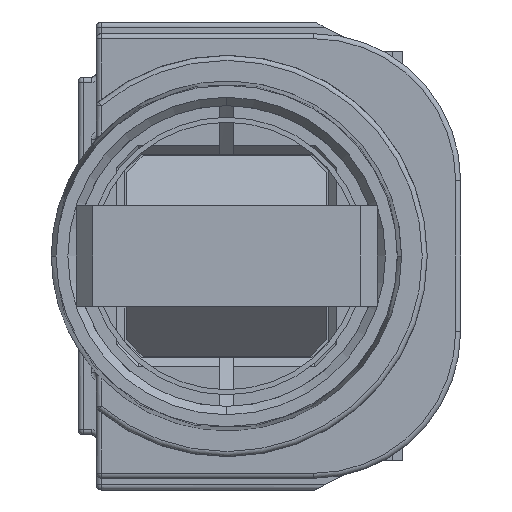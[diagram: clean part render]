
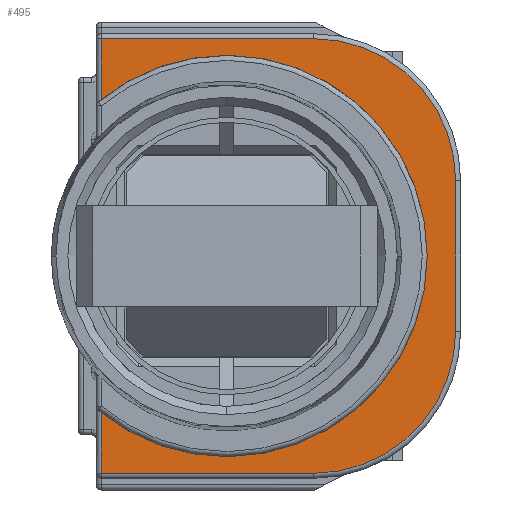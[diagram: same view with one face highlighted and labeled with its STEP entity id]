
A CAD part, front view. The second image highlights one B-rep face of the part: STEP entity #495.
In plain terms, the highlighted planar face has unit normal (0, -1, 0).
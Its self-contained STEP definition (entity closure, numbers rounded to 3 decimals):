
#495=ADVANCED_FACE('',(#1004),#808,.T.);
#808=PLANE('',#6183);
#1004=FACE_OUTER_BOUND('',#1349,.T.);
#1349=EDGE_LOOP('',(#2984,#2985,#2986,#2987,#2988,#2989,#2990,#2991));
#1736=LINE('',#8760,#2253);
#1743=LINE('',#9101,#2260);
#1744=LINE('',#9103,#2261);
#1745=LINE('',#9107,#2262);
#1746=LINE('',#9111,#2263);
#2253=VECTOR('',#6908,1.);
#2260=VECTOR('',#6979,1.);
#2261=VECTOR('',#6982,1.);
#2262=VECTOR('',#6985,1.);
#2263=VECTOR('',#6988,1.);
#2984=ORIENTED_EDGE('',*,*,#5086,.F.);
#2985=ORIENTED_EDGE('',*,*,#5125,.T.);
#2986=ORIENTED_EDGE('',*,*,#5126,.T.);
#2987=ORIENTED_EDGE('',*,*,#5127,.T.);
#2988=ORIENTED_EDGE('',*,*,#5128,.T.);
#2989=ORIENTED_EDGE('',*,*,#5129,.T.);
#2990=ORIENTED_EDGE('',*,*,#5130,.T.);
#2991=ORIENTED_EDGE('',*,*,#5079,.T.);
#4521=VERTEX_POINT('',#8761);
#4522=VERTEX_POINT('',#8762);
#4527=VERTEX_POINT('',#8791);
#4545=VERTEX_POINT('',#9100);
#4546=VERTEX_POINT('',#9104);
#4547=VERTEX_POINT('',#9106);
#4548=VERTEX_POINT('',#9108);
#4549=VERTEX_POINT('',#9110);
#5079=EDGE_CURVE('',#4521,#4522,#1736,.T.);
#5086=EDGE_CURVE('',#4527,#4522,#5847,.T.);
#5125=EDGE_CURVE('',#4527,#4545,#1743,.T.);
#5126=EDGE_CURVE('',#4545,#4546,#1744,.T.);
#5127=EDGE_CURVE('',#4546,#4547,#5863,.T.);
#5128=EDGE_CURVE('',#4547,#4548,#1745,.T.);
#5129=EDGE_CURVE('',#4548,#4549,#5864,.T.);
#5130=EDGE_CURVE('',#4549,#4521,#1746,.T.);
#5847=CIRCLE('',#6151,12.);
#5863=CIRCLE('',#6181,8.5);
#5864=CIRCLE('',#6182,8.5);
#6151=AXIS2_PLACEMENT_3D('',#8792,#6916,#6917);
#6181=AXIS2_PLACEMENT_3D('',#9105,#6983,#6984);
#6182=AXIS2_PLACEMENT_3D('',#9109,#6986,#6987);
#6183=AXIS2_PLACEMENT_3D('',#9112,#6989,#6990);
#6908=DIRECTION('',(0.,0.,-1.));
#6916=DIRECTION('',(0.,-1.,0.));
#6917=DIRECTION('',(-0.625,0.,-0.781));
#6979=DIRECTION('',(0.,0.,-1.));
#6982=DIRECTION('',(1.,0.,0.));
#6983=DIRECTION('',(0.,-1.,0.));
#6984=DIRECTION('',(0.,0.,-1.));
#6985=DIRECTION('',(0.,0.,1.));
#6986=DIRECTION('',(0.,-1.,0.));
#6987=DIRECTION('',(1.,0.,0.));
#6988=DIRECTION('',(-1.,0.,0.));
#6989=DIRECTION('',(0.,-1.,0.));
#6990=DIRECTION('',(-1.,0.,0.));
#8760=CARTESIAN_POINT('',(-9.2,-20.4,13.));
#8761=CARTESIAN_POINT('',(-9.2,-20.4,13.));
#8762=CARTESIAN_POINT('',(-9.2,-20.4,9.367));
#8791=CARTESIAN_POINT('',(-9.2,-20.4,-9.367));
#8792=CARTESIAN_POINT('',(-1.7,-20.4,0.));
#9100=CARTESIAN_POINT('',(-9.2,-20.4,-13.));
#9101=CARTESIAN_POINT('',(-9.2,-20.4,-9.367));
#9103=CARTESIAN_POINT('',(-9.2,-20.4,-13.));
#9104=CARTESIAN_POINT('',(3.5,-20.4,-13.));
#9105=CARTESIAN_POINT('',(3.5,-20.4,-4.5));
#9106=CARTESIAN_POINT('',(12.,-20.4,-4.5));
#9107=CARTESIAN_POINT('',(12.,-20.4,-4.5));
#9108=CARTESIAN_POINT('',(12.,-20.4,4.5));
#9109=CARTESIAN_POINT('',(3.5,-20.4,4.5));
#9110=CARTESIAN_POINT('',(3.5,-20.4,13.));
#9111=CARTESIAN_POINT('',(3.5,-20.4,13.));
#9112=CARTESIAN_POINT('',(-9.5,-20.4,0.));
